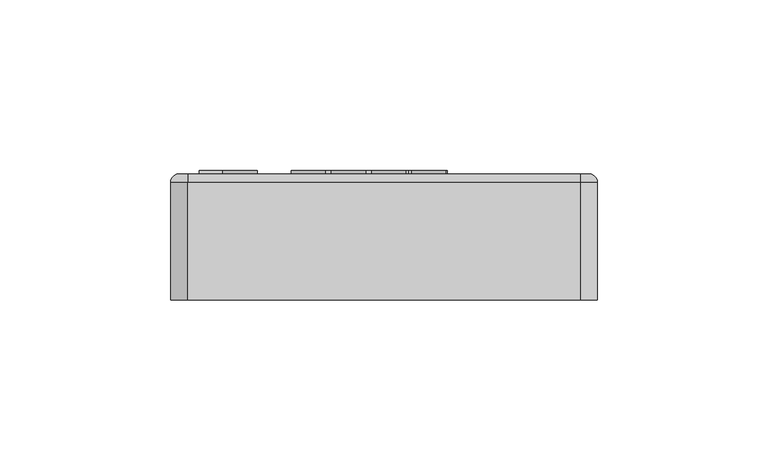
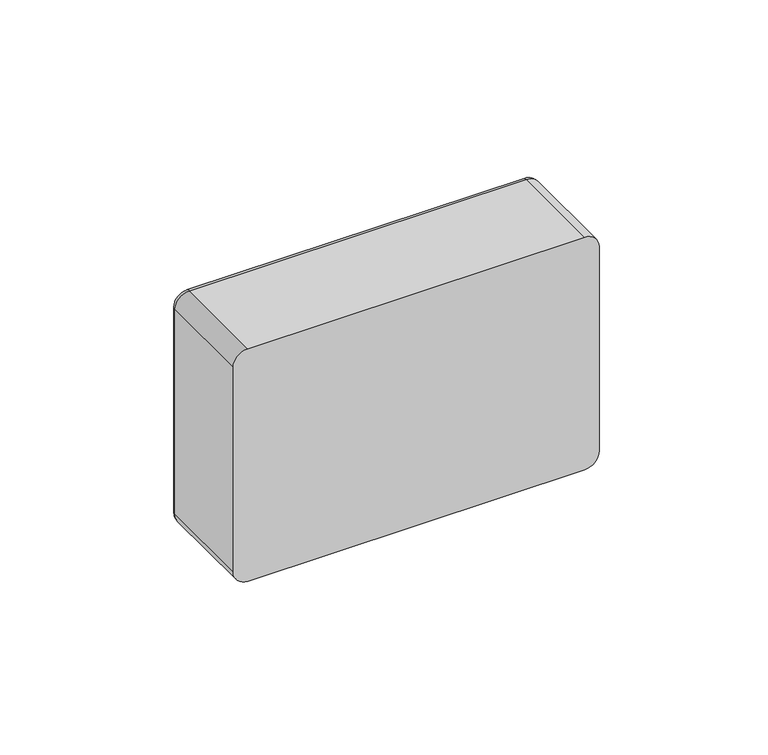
"""IFC4 building model written with IfcOpenShell, lengths in millimetres: proxy geometry, RBZ_МодульРелейный_Рубеж_РМ-1К(4К) _прот.R3 : РМ-4К прот. R3."""

from ifc_helpers import new_model, si_unit, point, frame, frame_2d, origin, place, context, project, spatial, polyline, circle_curve, ellipse_curve, trimmed, segment, composite_curve, outline, extrude, source, transform, mapped, element, save
from ifc_brep_helpers import plane_surface, cylinder_surface, revolved_surface, advanced_brep


def electrical_equipment_0829c287(model_context):
    return source(origin(), model_context, "Body", "SolidModel", [
        extrude(outline(composite_curve([segment(trimmed(circle_curve(frame_2d((53.3588162, 13.1407638)), 5.0), [point((53.3588162, 18.1407638))], [point((53.3588162, 8.1407638))], False, "CARTESIAN"), True, "CONTINUOUS"), segment(trimmed(circle_curve(frame_2d((53.3588162, 13.1407638)), 5.0), [point((53.3588162, 8.1407638))], [point((53.3588162, 18.1407638))], False, "CARTESIAN"), True, "CONTINUOUS")], self_intersect=False)), frame((0.0, 37.0, 0.0), z_axis=(0.0, 1.0, 0.0), x_axis=(0.0, 0.0, 1.0)), (0.0, 0.0, 1.0), 1.0),
        extrude(outline(composite_curve([segment(trimmed(circle_curve(frame_2d((53.3588162, 1.3613803)), 5.0), [point((53.3588162, 6.3613803))], [point((53.3588162, -3.6386197))], False, "CARTESIAN"), True, "CONTINUOUS"), segment(trimmed(circle_curve(frame_2d((53.3588162, 1.3613803)), 5.0), [point((53.3588162, -3.6386197))], [point((53.3588162, 6.3613803))], False, "CARTESIAN"), True, "CONTINUOUS")], self_intersect=False)), frame((0.0, 37.0, 0.0), z_axis=(0.0, 1.0, 0.0), x_axis=(0.0, 0.0, 1.0)), (0.0, 0.0, 1.0), 1.0),
        extrude(outline(composite_curve([segment(trimmed(circle_curve(frame_2d((53.3588162, -10.4180031)), 5.0), [point((53.3588162, -5.4180031))], [point((53.3588162, -15.4180031))], False, "CARTESIAN"), True, "CONTINUOUS"), segment(trimmed(circle_curve(frame_2d((53.3588162, -10.4180031)), 5.0), [point((53.3588162, -15.4180031))], [point((53.3588162, -5.4180031))], False, "CARTESIAN"), True, "CONTINUOUS")], self_intersect=False)), frame((0.0, 37.0, 0.0), z_axis=(0.0, 1.0, 0.0), x_axis=(0.0, 0.0, 1.0)), (0.0, 0.0, 1.0), 1.0),
        extrude(outline(composite_curve([segment(trimmed(circle_curve(frame_2d((53.3588162, -22.1973865)), 5.0), [point((53.3588162, -17.1973865))], [point((53.3588162, -27.1973865))], False, "CARTESIAN"), True, "CONTINUOUS"), segment(trimmed(circle_curve(frame_2d((53.3588162, -22.1973865)), 5.0), [point((53.3588162, -27.1973865))], [point((53.3588162, -17.1973865))], False, "CARTESIAN"), True, "CONTINUOUS")], self_intersect=False)), frame((0.0, 37.0, 0.0), z_axis=(0.0, 1.0, 0.0), x_axis=(0.0, 0.0, 1.0)), (0.0, 0.0, 1.0), 1.0),
        extrude(outline(composite_curve([segment(trimmed(circle_curve(frame_2d((53.3588162, -42.1973865)), 5.0), [point((53.3588162, -37.1973865))], [point((53.3588162, -47.1973865))], False, "CARTESIAN"), True, "CONTINUOUS"), segment(trimmed(circle_curve(frame_2d((53.3588162, -42.1973865)), 5.0), [point((53.3588162, -47.1973865))], [point((53.3588162, -37.1973865))], False, "CARTESIAN"), True, "CONTINUOUS")], self_intersect=False)), frame((0.0, 37.0, 0.0), z_axis=(0.0, 1.0, 0.0), x_axis=(0.0, 0.0, 1.0)), (0.0, 0.0, 1.0), 1.0),
        extrude(outline(polyline([(16.8535228, -44.5809835), (16.8535228, -54.095442), (12.2150397, -52.2213731), (12.2150397, -50.4073043), (7.3266777, -53.9589072), (7.3266777, -51.3726746), (9.499446, -49.9616623), (9.499446, -38.6689562), (19.7294115, -42.8021305), (17.6170136, -44.3368775), (11.5052734, -41.8675742), (11.5052734, -48.3058879), (13.9791295, -46.699347), (13.9791295, -50.735573), (14.8288565, -51.078885), (14.8288565, -46.0654671), (12.2150397, -45.0094166), (12.2150397, -42.7069147), (16.8535228, -44.5809835)])), frame((0.0, 37.0, 0.0), z_axis=(0.0, 1.0, 0.0), x_axis=(0.0, 0.0, 1.0)), (0.0, 0.0, 1.0), 1.0),
        extrude(outline(polyline([(8.679106, 16.6169585), (8.679106, 18.5957354), (18.8817, 16.5157423), (18.8817, 12.3557561), (18.6210682, 10.6021852), (17.7582, 9.5799015), (16.3183995, 9.2028711), (14.8153387, 9.5065197), (13.6450263, 10.2529893), (12.9795297, 11.2044217), (12.6366598, 12.5759013), (12.5658085, 14.4585228), (12.5658085, 15.8224113), (8.679106, 16.6169585)]), holes=[polyline([(14.1852678, 15.4934586), (14.4028827, 12.4266074), (15.1012745, 11.4890923), (16.1564535, 11.1462224), (17.2622406, 13.2439283), (17.2622406, 14.8659181), (14.1852678, 15.4934586)])]), frame((0.0, 37.0, 0.0), z_axis=(0.0, 1.0, 0.0), x_axis=(0.0, 0.0, 1.0)), (0.0, 0.0, 1.0), 1.0),
        extrude(outline(polyline([(8.679106, 3.3728174), (8.679106, 5.3161686), (17.1053555, 5.7210335), (8.679106, 7.2595199), (8.679106, 9.2307056), (18.8817, 7.1456516), (18.8817, 4.1698951), (11.5738896, 3.8586552), (18.8817, 0.6627534), (18.8817, -2.4648275), (8.679106, -0.5493107), (8.679106, 1.4294662), (17.1002947, -0.2709662), (8.679106, 3.3728174)])), frame((0.0, 37.0, 0.0), z_axis=(0.0, 1.0, 0.0), x_axis=(0.0, 0.0, 1.0)), (0.0, 0.0, 1.0), 1.0),
        extrude(outline(polyline([(13.3755381, -2.7811282), (13.3755381, -6.6678307), (11.4321869, -6.3439388), (11.4321869, -2.4572363), (13.3755381, -2.7811282)])), frame((0.0, 37.0, 0.0), z_axis=(0.0, 1.0, 0.0), x_axis=(0.0, 0.0, 1.0)), (0.0, 0.0, 1.0), 1.0),
        extrude(outline(polyline([(10.7844032, -10.984702), (10.7844032, -6.9917225), (12.3785585, -7.3282664), (18.719754, -12.7028472), (18.719754, -14.5778775), (12.4038625, -13.2899012), (12.4038625, -14.4412356), (10.7844032, -14.1021613), (10.7844032, -12.9609485), (8.679106, -12.5307796), (8.679106, -10.5545331), (10.7844032, -10.984702)]), holes=[polyline([(12.4038625, -11.3136547), (15.6427812, -11.9740905), (12.4038625, -9.2589656), (12.4038625, -11.3136547)])]), frame((0.0, 37.0, 0.0), z_axis=(0.0, 1.0, 0.0), x_axis=(0.0, 0.0, 1.0)), (0.0, 0.0, 1.0), 1.0),
        extrude(outline(polyline([(18.8817, -17.1943165), (18.8817, -19.1730934), (14.5091597, -18.2722692), (14.7584046, -19.1920715), (16.209592, -20.2105596), (17.9644281, -21.3416507), (18.6640851, -22.2412098), (18.8817, -23.7607182), (17.3179095, -23.8366303), (16.5663792, -22.3664649), (14.4699384, -20.99372), (13.780403, -19.9094414), (11.976224, -21.361894), (8.679106, -22.310796), (8.679106, -20.2965934), (11.788974, -19.4033603), (13.0516463, -17.9686205), (8.679106, -17.0677963), (8.679106, -15.0890194), (18.8817, -17.1943165)])), frame((0.0, 37.0, 0.0), z_axis=(0.0, 1.0, 0.0), x_axis=(0.0, 0.0, 1.0)), (0.0, 0.0, 1.0), 1.0),
        extrude(outline(composite_curve([segment(trimmed(circle_curve(frame_2d((74.0, -52.5)), 5.0), [point((79.0, -52.5))], [point((74.0, -57.5))], False, "CARTESIAN"), True, "CONTINUOUS"), segment(polyline([(74.0, -57.5), (10.0, -57.5)]), True, "CONTINUOUS"), segment(trimmed(circle_curve(frame_2d((10.0, -52.5)), 5.0), [point((10.0, -57.5))], [point((5.0, -52.5))], False, "CARTESIAN"), True, "CONTINUOUS"), segment(polyline([(5.0, -52.5), (5.0, 22.5)]), True, "CONTINUOUS"), segment(trimmed(circle_curve(frame_2d((10.0, 22.5)), 5.0), [point((5.0, 22.5))], [point((10.0, 27.5))], False, "CARTESIAN"), True, "CONTINUOUS"), segment(polyline([(10.0, 27.5), (15.0, 27.5)]), True, "CONTINUOUS"), segment(trimmed(circle_curve(frame_2d((25.0, 27.5)), 10.0), [point((15.0, 27.5))], [point((35.0, 27.5))], False, "CARTESIAN"), True, "CONTINUOUS"), segment(polyline([(35.0, 27.5), (74.0, 27.5)]), True, "CONTINUOUS"), segment(trimmed(circle_curve(frame_2d((74.0, 22.5)), 5.0), [point((74.0, 27.5))], [point((79.0, 22.5))], False, "CARTESIAN"), True, "CONTINUOUS"), segment(polyline([(79.0, 22.5), (79.0, -52.5)]), True, "CONTINUOUS")], self_intersect=False)), frame((0.0, 34.8836616, 0.0), z_axis=(0.0, 1.0, 0.0), x_axis=(0.0, 0.0, 1.0)), (0.0, 0.0, 1.0), 2.1163384),
        advanced_brep(
        [(-57.5, 37.0, 2.5), (-60.0, 37.0, 5.0), (-60.0, 37.0, 79.0), (-57.5, 37.0, 81.5), (57.5, 37.0, 81.5), (60.0, 37.0, 79.0), (60.0, 37.0, 5.0), (57.5, 37.0, 2.5), (27.5, 37.0, 74.0), (22.5, 37.0, 79.0), (-52.5, 37.0, 79.0), (-57.5, 37.0, 74.0), (-57.5, 37.0, 10.0), (-52.5, 37.0, 5.0), (22.5, 37.0, 5.0), (27.5, 37.0, 10.0), (27.5, 37.0, 15.0), (27.5, 37.0, 35.0), (-57.5, 0.0, 84.0), (-62.5, 0.0, 79.0), (-62.5, 0.0, 5.0), (-57.5, 0.0, 0.0), (57.5, 0.0, 0.0), (62.5, 0.0, 5.0), (62.5, 0.0, 79.0), (57.5, 0.0, 84.0), (57.5, 34.5, 84.0), (-57.5, 34.5, 84.0), (62.5, 34.5000019, 79.0), (62.5, 34.5, 5.0), (57.5, 34.5000019, 0.0), (-57.5, 34.5000019, 0.0), (-62.5, 34.5000019, 5.0), (-62.5, 34.5, 79.0), (22.5, 31.4049918, 79.0), (27.5, 31.4049918, 74.0), (27.5, 31.4049918, 35.0), (27.5, 31.4049918, 15.0), (27.5, 31.4049918, 10.0), (22.5, 31.4049918, 5.0), (-52.5, 31.4049918, 5.0), (-57.5, 31.4049918, 10.0), (-57.5, 31.4049918, 74.0), (-52.5, 31.4049918, 79.0)],
        [
            (0, 1, circle_curve(frame((-57.5, 37.0, 5.0), z_axis=(0.0, 1.0, 0.0), x_axis=(0.0, 0.0, -1.0)), 2.5)),
            (1, 2),
            (2, 3, circle_curve(frame((-57.5, 37.0, 79.0), z_axis=(0.0, 1.0, 0.0), x_axis=(-1.0, 0.0, 0.0)), 2.5)),
            (3, 4),
            (4, 5, circle_curve(frame((57.5, 37.0, 79.0), z_axis=(0.0, 1.0, 0.0), x_axis=(0.0, 0.0, 1.0)), 2.5)),
            (5, 6),
            (6, 7, circle_curve(frame((57.5, 37.0, 5.0), z_axis=(0.0, 1.0, 0.0), x_axis=(1.0, 0.0, 0.0)), 2.5)),
            (7, 0),
            (8, 9, circle_curve(frame((22.5, 37.0, 74.0), z_axis=(0.0, -1.0, 0.0), x_axis=(-1.0, 0.0, 0.0)), 5.0)),
            (9, 10),
            (10, 11, circle_curve(frame((-52.5, 37.0, 74.0), z_axis=(0.0, -1.0, 0.0), x_axis=(-1.0, 0.0, 0.0)), 5.0)),
            (11, 12),
            (12, 13, circle_curve(frame((-52.5, 37.0, 10.0), z_axis=(0.0, -1.0, 0.0), x_axis=(-1.0, 0.0, 0.0)), 5.0)),
            (13, 14),
            (14, 15, circle_curve(frame((22.5, 37.0, 10.0), z_axis=(0.0, -1.0, 0.0), x_axis=(-1.0, 0.0, 0.0)), 5.0)),
            (15, 16),
            (16, 17, circle_curve(frame((27.5, 37.0, 25.0), z_axis=(0.0, -1.0, 0.0), x_axis=(-1.0, 0.0, 0.0)), 10.0)),
            (17, 8),
            (18, 19, circle_curve(frame((-57.5, 0.0, 79.0), z_axis=(0.0, -1.0, 0.0), x_axis=(-1.0, 0.0, 0.0)), 5.0)),
            (19, 20),
            (20, 21, circle_curve(frame((-57.5, 0.0, 5.0), z_axis=(0.0, -1.0, 0.0), x_axis=(-1.0, 0.0, 0.0)), 5.0)),
            (21, 22),
            (22, 23, circle_curve(frame((57.5, 0.0, 5.0), z_axis=(0.0, -1.0, 0.0), x_axis=(-1.0, 0.0, 0.0)), 5.0)),
            (23, 24),
            (24, 25, circle_curve(frame((57.5, 0.0, 79.0), z_axis=(0.0, -1.0, 0.0), x_axis=(-1.0, 0.0, 0.0)), 5.0)),
            (25, 18),
            (25, 26),
            (26, 27),
            (27, 18),
            (24, 28),
            (28, 26, circle_curve(frame((57.5, 34.5, 79.0), z_axis=(0.0, -1.0, 0.0), x_axis=(-1.0, 0.0, 0.0)), 5.0)),
            (23, 29),
            (29, 28),
            (22, 30),
            (30, 29, circle_curve(frame((57.5, 34.5, 5.0), z_axis=(0.0, -1.0, 0.0), x_axis=(-1.0, 0.0, 0.0)), 5.0)),
            (21, 31),
            (31, 30),
            (20, 32),
            (32, 31, circle_curve(frame((-57.5, 34.5, 5.0), z_axis=(0.0, -1.0, 0.0), x_axis=(-1.0, 0.0, 0.0)), 5.0)),
            (19, 33),
            (33, 32),
            (27, 33, circle_curve(frame((-57.5, 34.5, 79.0), z_axis=(0.0, -1.0, 0.0), x_axis=(-1.0, 0.0, 0.0)), 5.0)),
            (34, 35, circle_curve(frame((22.5, 31.4049918, 74.0), z_axis=(0.0, 1.0, 0.0), x_axis=(-1.0, 0.0, 0.0)), 5.0)),
            (35, 36),
            (36, 37, circle_curve(frame((27.5, 31.4049918, 25.0), z_axis=(0.0, 1.0, 0.0), x_axis=(-1.0, 0.0, 0.0)), 10.0)),
            (37, 38),
            (38, 39, circle_curve(frame((22.5, 31.4049918, 10.0), z_axis=(0.0, 1.0, 0.0), x_axis=(-1.0, 0.0, 0.0)), 5.0)),
            (39, 40),
            (40, 41, circle_curve(frame((-52.5, 31.4049918, 10.0), z_axis=(0.0, 1.0, 0.0), x_axis=(-1.0, 0.0, 0.0)), 5.0)),
            (41, 42),
            (42, 43, circle_curve(frame((-52.5, 31.4049918, 74.0), z_axis=(0.0, 1.0, 0.0), x_axis=(-1.0, 0.0, 0.0)), 5.0)),
            (43, 34),
            (34, 9),
            (8, 35),
            (17, 36),
            (16, 37),
            (15, 38),
            (14, 39),
            (13, 40),
            (12, 41),
            (11, 42),
            (10, 43),
            (32, 1, circle_curve(frame((-60.0, 34.5, 5.0), z_axis=(0.0, 0.0, -1.0), x_axis=(1.0, 0.0, 0.0)), 2.5)),
            (0, 31, circle_curve(frame((-57.5, 34.5, 2.5), z_axis=(-1.0, 0.0, 0.0), x_axis=(0.0, 0.0, 1.0)), 2.5)),
            (33, 2, circle_curve(frame((-60.0, 34.5, 79.0), z_axis=(0.0, 0.0, -1.0), x_axis=(1.0, 0.0, 0.0)), 2.5)),
            (27, 3, circle_curve(frame((-57.5, 34.5, 81.5), z_axis=(-1.0, 0.0, 0.0), x_axis=(0.0, 0.0, -1.0)), 2.5)),
            (26, 4, circle_curve(frame((57.5, 34.5, 81.5), z_axis=(-1.0, 0.0, 0.0), x_axis=(0.0, 0.0, -1.0)), 2.5)),
            (28, 5, circle_curve(frame((60.0, 34.5, 79.0), z_axis=(0.0, 0.0, 1.0), x_axis=(-1.0, 0.0, 0.0)), 2.5)),
            (29, 6, circle_curve(frame((60.0, 34.5, 5.0), z_axis=(0.0, 0.0, 1.0), x_axis=(-1.0, 0.0, 0.0)), 2.5)),
            (30, 7, circle_curve(frame((57.5, 34.5, 2.5), z_axis=(1.0, 0.0, 0.0), x_axis=(0.0, 0.0, 1.0)), 2.5)),
        ],
        [
            plane_surface(frame((62.5, 37.0, 84.0), z_axis=(0.0, 1.0, 0.0), x_axis=(1.0, 0.0, 0.0))),
            plane_surface(frame((62.5, 0.0, 84.0), z_axis=(0.0, -1.0, 0.0), x_axis=(-1.0, 0.0, 0.0))),
            plane_surface(frame((-57.5, 37.0, 84.0), z_axis=(0.0, 0.0, 1.0), x_axis=(0.0, -1.0, 0.0))),
            cylinder_surface(frame((57.5, 0.0, 79.0), z_axis=(0.0, 1.0, 0.0), x_axis=(-1.0, 0.0, 0.0)), 5.0),
            plane_surface(frame((62.5, 37.0, 79.0), z_axis=(1.0, 0.0, 0.0), x_axis=(0.0, -1.0, 0.0))),
            cylinder_surface(frame((57.5, 0.0, 5.0), z_axis=(0.0, 1.0, 0.0), x_axis=(-1.0, 0.0, 0.0)), 5.0),
            plane_surface(frame((57.5, 37.0, 0.0), z_axis=(0.0, 0.0, -1.0), x_axis=(0.0, -1.0, 0.0))),
            cylinder_surface(frame((-57.5, 0.0, 5.0), z_axis=(0.0, 1.0, 0.0), x_axis=(-1.0, 0.0, 0.0)), 5.0),
            plane_surface(frame((-62.5, 37.0, 5.0), z_axis=(-1.0, 0.0, 0.0), x_axis=(0.0, -1.0, 0.0))),
            cylinder_surface(frame((-57.5, 0.0, 79.0), z_axis=(0.0, 1.0, 0.0), x_axis=(-1.0, 0.0, 0.0)), 5.0),
            plane_surface(frame((17.5, 31.4049918, 74.0), z_axis=(0.0, 1.0, 0.0), x_axis=(0.0, 0.0, -1.0))),
            revolved_surface(polyline([(17.5, 37.0, 74.0), (17.5, 31.4049918, 74.0)]), (22.5, 31.4049918, 74.0), (0.0, 1.0, 0.0)),
            plane_surface(frame((27.5, 37.0, 74.0), z_axis=(-1.0, 0.0, 0.0), x_axis=(0.0, -1.0, 0.0))),
            revolved_surface(polyline([(17.5, 37.0, 25.0), (17.5, 31.4049918, 25.0)]), (27.5, 31.4049918, 25.0), (0.0, 1.0, 0.0)),
            plane_surface(frame((27.5, 37.0, 15.0), z_axis=(-1.0, 0.0, 0.0), x_axis=(0.0, -1.0, 0.0))),
            revolved_surface(polyline([(17.5, 37.0, 10.0), (17.5, 31.4049918, 10.0)]), (22.5, 31.4049918, 10.0), (0.0, 1.0, 0.0)),
            plane_surface(frame((22.5, 37.0, 5.0), z_axis=(0.0, 0.0, 1.0), x_axis=(0.0, -1.0, 0.0))),
            revolved_surface(polyline([(-57.5, 37.0, 10.0), (-57.5, 31.4049918, 10.0)]), (-52.5, 31.4049918, 10.0), (0.0, 1.0, 0.0)),
            plane_surface(frame((-57.5, 37.0, 10.0), z_axis=(1.0, 0.0, 0.0), x_axis=(0.0, -1.0, 0.0))),
            revolved_surface(polyline([(-57.5, 37.0, 74.0), (-57.5, 31.4049918, 74.0)]), (-52.5, 31.4049918, 74.0), (0.0, 1.0, 0.0)),
            plane_surface(frame((-52.5, 37.0, 79.0), z_axis=(0.0, 0.0, -1.0), x_axis=(0.0, -1.0, 0.0))),
            revolved_surface(trimmed(ellipse_curve(frame((-57.5, 34.5, 2.5), z_axis=(1.0, 0.0, 0.0), x_axis=(0.0, 0.0, 1.0)), 2.5, 2.5), [point((-57.5, 34.5, 0.0))], [point((-57.5, 37.0, 2.5))], True, "CARTESIAN"), (-57.5, 37.0, 5.0), (0.0, 1.0, 0.0)),
            cylinder_surface(frame((-60.0, 34.5, 5.0), z_axis=(0.0, 0.0, 1.0), x_axis=(1.0, 0.0, 0.0)), 2.5),
            revolved_surface(trimmed(ellipse_curve(frame((-60.0, 34.5, 79.0), z_axis=(0.0, 0.0, -1.0), x_axis=(1.0, 0.0, 0.0)), 2.5, 2.5), [point((-62.5, 34.5, 79.0))], [point((-60.0, 37.0, 79.0))], True, "CARTESIAN"), (-57.5, 37.0, 79.0), (0.0, 1.0, 0.0)),
            cylinder_surface(frame((-57.5, 34.5, 81.5), z_axis=(1.0, 0.0, 0.0), x_axis=(0.0, 0.0, -1.0)), 2.5),
            revolved_surface(trimmed(ellipse_curve(frame((57.5, 34.5, 81.5), z_axis=(-1.0, 0.0, 0.0), x_axis=(0.0, 0.0, -1.0)), 2.5, 2.5), [point((57.5, 34.5, 84.0))], [point((57.5, 37.0, 81.5))], True, "CARTESIAN"), (57.5, 37.0, 79.0), (0.0, 1.0, 0.0)),
            cylinder_surface(frame((60.0, 34.5, 79.0), z_axis=(0.0, 0.0, -1.0), x_axis=(-1.0, 0.0, 0.0)), 2.5),
            revolved_surface(trimmed(ellipse_curve(frame((60.0, 34.5, 5.0), z_axis=(0.0, 0.0, 1.0), x_axis=(-1.0, 0.0, 0.0)), 2.5, 2.5), [point((62.5, 34.5, 5.0))], [point((60.0, 37.0, 5.0))], True, "CARTESIAN"), (57.5, 37.0, 5.0), (0.0, 1.0, 0.0)),
            cylinder_surface(frame((57.5, 34.5, 2.5), z_axis=(-1.0, 0.0, 0.0), x_axis=(0.0, 0.0, 1.0)), 2.5),
        ],
        [
            (0, [[1, 2, 3, 4, 5, 6, 7, 8], [9, 10, 11, 12, 13, 14, 15, 16, 17, 18]]),
            (1, [[19, 20, 21, 22, 23, 24, 25, 26]]),
            (2, [[-26, 27, 28, 29]]),
            (3, [[-25, 30, 31, -27]]),
            (4, [[-24, 32, 33, -30]]),
            (5, [[-23, 34, 35, -32]]),
            (6, [[-22, 36, 37, -34]]),
            (7, [[-21, 38, 39, -36]]),
            (8, [[-20, 40, 41, -38]]),
            (9, [[-19, -29, 42, -40]]),
            (10, [[43, 44, 45, 46, 47, 48, 49, 50, 51, 52]]),
            (11, [[-43, 53, -9, 54]]),
            (12, [[-44, -54, -18, 55]]),
            (13, [[-45, -55, -17, 56]]),
            (14, [[-46, -56, -16, 57]]),
            (15, [[-47, -57, -15, 58]]),
            (16, [[-48, -58, -14, 59]]),
            (17, [[-49, -59, -13, 60]]),
            (18, [[-50, -60, -12, 61]]),
            (19, [[-51, -61, -11, 62]]),
            (20, [[-52, -62, -10, -53]]),
            (21, [[63, -1, 64, -39]]),
            (22, [[-63, -41, 65, -2]]),
            (23, [[-65, -42, 66, -3]]),
            (24, [[-66, -28, 67, -4]]),
            (25, [[-67, -31, 68, -5]]),
            (26, [[-68, -33, 69, -6]]),
            (27, [[-69, -35, 70, -7]]),
            (28, [[-64, -8, -70, -37]]),
        ],
    ),
    ])


if __name__ == "__main__":
    model = new_model("IFC4")
    model_context = context("Model", 3, world=origin())
    ifc_project = project(units=[si_unit("LENGTHUNIT", "METRE", prefix="MILLI")], contexts=[model_context])
    site = spatial("IfcSite", under=ifc_project)
    building = spatial("IfcBuilding", under=site)
    placement = place(None, origin())
    electrical_equipment_shape = electrical_equipment_0829c287(model_context)
    element("IfcBuildingElementProxy", 1, Name="RBZ_МодульРелейный_Рубеж_РМ-1К(4К) _прот.R3 : РМ-4К прот. R3", ObjectType="RBZ_МодульРелейный_Рубеж_РМ-1К(4К) _прот.R3 : РМ-4К прот. R3", at=placement, inside=building, context=model_context, shape_type="MappedRepresentation", body=[
        mapped(electrical_equipment_shape, transform((0.0, 0.0, 0.0), x_axis=(1.0, 0.0, 0.0), y_axis=(0.0, 1.0, 0.0), z_axis=(0.0, 0.0, 1.0))),
    ])
    save(model, "model.ifc")
